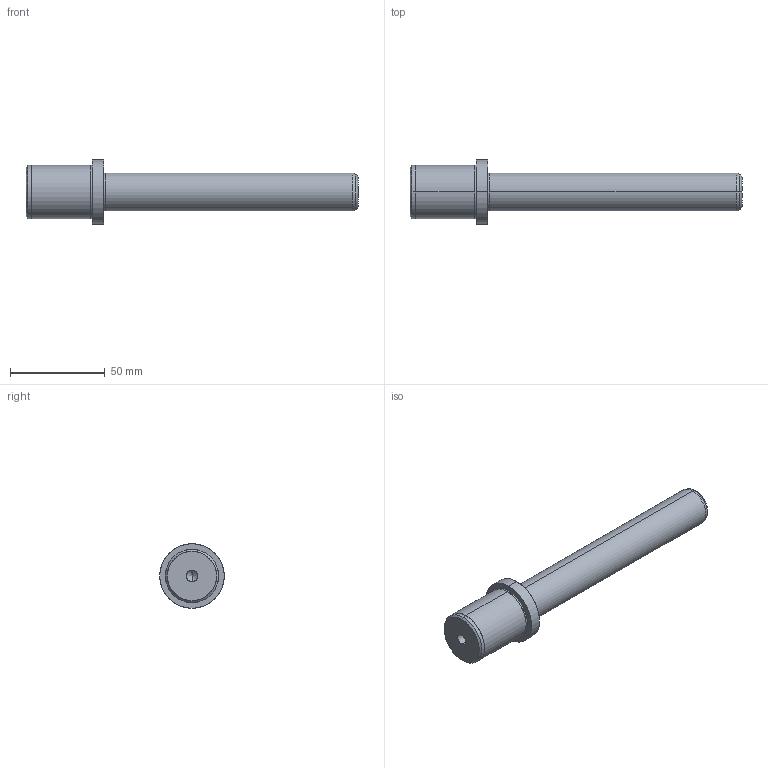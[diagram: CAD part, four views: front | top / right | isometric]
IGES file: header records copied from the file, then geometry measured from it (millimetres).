
Start section: SolidWorks IGES file using analytic representation for surfaces
Global section: file name: C:\Documents and Settings\kalite-mail\Desktop\IGS\D05\D05 - 20x140x35.IGS; native system: SolidWorks 2008; preprocessor: SolidWorks 2008; author: kalite-mail; date: 080617.103809; units: millimetre
Bounding box: 175 x 34 x 34 mm (x, y, z)
Surface area: 14110.8 mm2 (no closed solid volume)
Topology: 0 solids, 0 shells, 29 faces, 728 edges, 726 vertices
Faces by surface type: revolution 20, bspline 9
